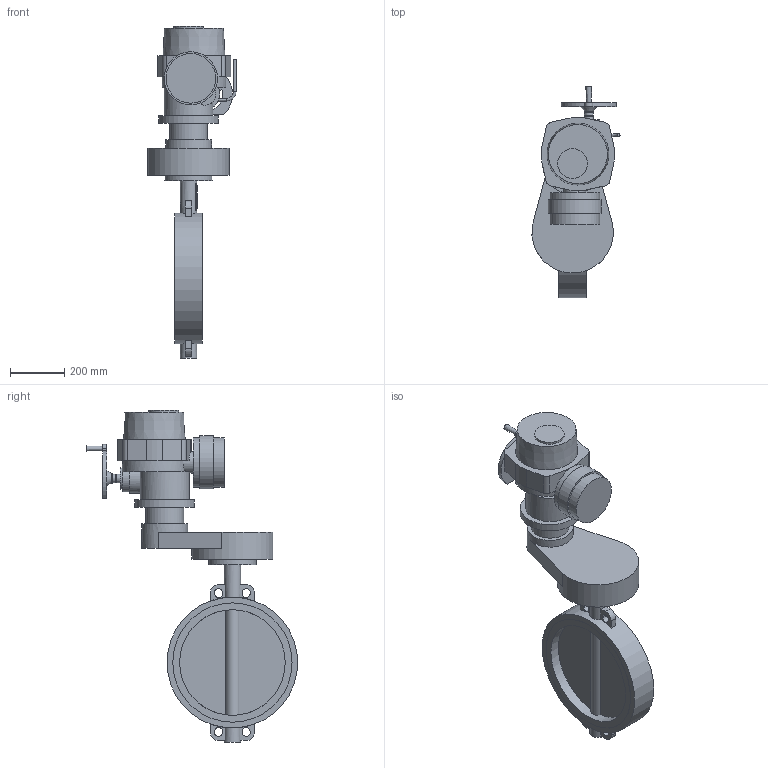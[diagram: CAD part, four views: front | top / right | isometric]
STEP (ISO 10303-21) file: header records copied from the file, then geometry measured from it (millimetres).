
FILE_DESCRIPTION(('STEP AP203'), '1');
FILE_NAME('Çàòâîð 017W.Z(ñòàëü) DN400+ÝÏ QT.A200', '', ('UNSPECIFIED'), ('UNSPECIFIED'), 'ASCON STEP Converter 1.6', 'ASCON Math Kernel', '');
FILE_SCHEMA(('CONFIG_CONTROL_DESIGN'));
Length unit declared in the file: millimetre
Bounding box: 324.45 x 780 x 1224 mm (x, y, z)
Volume: 40584875.2 mm3; surface area: 1681440.4 mm2
Topology: 1 solids, 1 shells, 892 faces, 2477 edges, 1646 vertices
Faces by surface type: cylinder 636, plane 252, cone 3, torus 1
Full cylindrical faces by diameter (mm): 10 x2, 14 x12, 16 x1, 17.5 x4, 18 x4, 32 x2, 35 x1, 60 x2, 80 x2, 100 x1, 110 x1, 140 x1, 170 x1, 175 x1, 180 x1, 183 x2, 196 x1, 220 x1, 300 x1, 389.6 x2, 440 x2, 482 x1
Entity records: 37272 total; most frequent: CARTESIAN_POINT 6118, DIRECTION 5512, ORIENTED_EDGE 4854, EDGE_CURVE 2427, AXIS2_PLACEMENT_3D 2212, VERTEX_POINT 1646, CIRCLE 1319, LINE 1088
